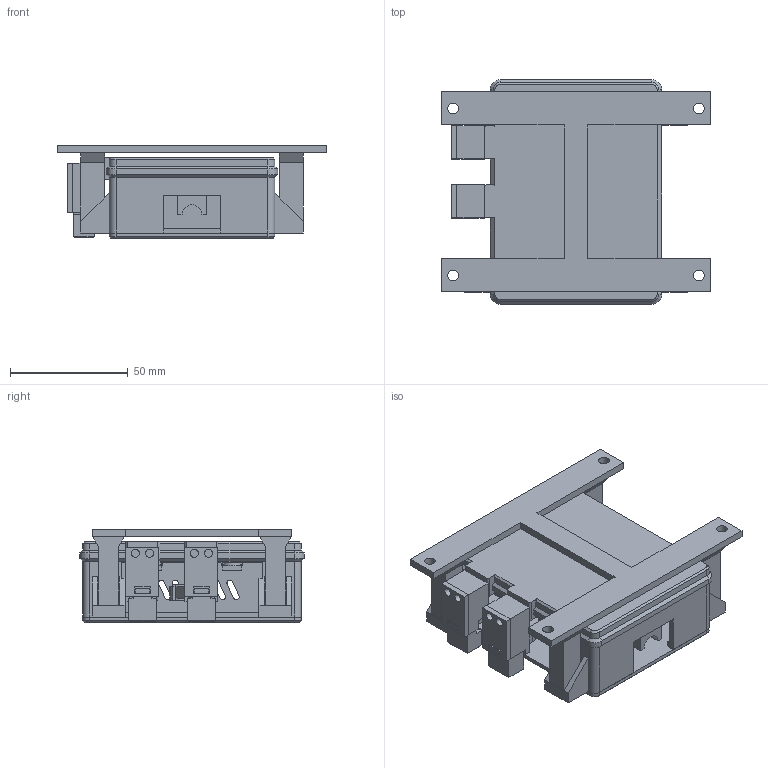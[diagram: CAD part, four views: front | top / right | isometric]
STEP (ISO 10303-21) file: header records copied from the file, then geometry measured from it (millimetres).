
FILE_DESCRIPTION(('Open CASCADE Model'),'2;1');
FILE_NAME('Open CASCADE Shape Model','2026-10-19T19:32:26',('Author'),( 'Open CASCADE'),'Open CASCADE STEP processor 7.9','build123d', 'Unknown');
FILE_SCHEMA(('AUTOMOTIVE_DESIGN { 1 0 10303 214 1 1 1 1 }'));
Length unit declared in the file: millimetre
Products named in the file (16): COMPOUND
Assembly tree (15 placements, depth 2):
  COMPOUND
    COMPOUND
    COMPOUND
    COMPOUND
    COMPOUND
    COMPOUND
    COMPOUND
    COMPOUND
    COMPOUND
    COMPOUND
    COMPOUND
    COMPOUND
    COMPOUND
    COMPOUND
    COMPOUND
    COMPOUND
Bounding box: 114.3 x 95.2 x 39.6 mm (x, y, z)
Volume: 94156.7 mm3; surface area: 74117.8 mm2
Topology: 15 solids, 15 shells, 661 faces, 1698 edges, 1107 vertices
Faces by surface type: plane 522, cylinder 123, cone 16
Full cylindrical faces by diameter (mm): 3.4 x22, 3.9 x6, 4 x12, 4.5 x4
Entity records: 41672 total; most frequent: CARTESIAN_POINT 8452, DIRECTION 5650, LINE 3636, VECTOR 3636, ORIENTED_EDGE 3396, PCURVE 3396, DEFINITIONAL_REPRESENTATION 3396, EDGE_CURVE 1698
